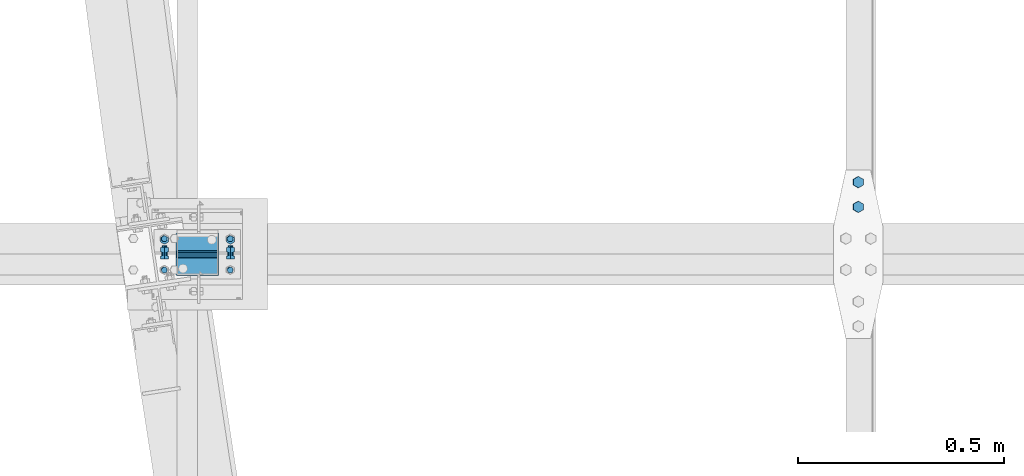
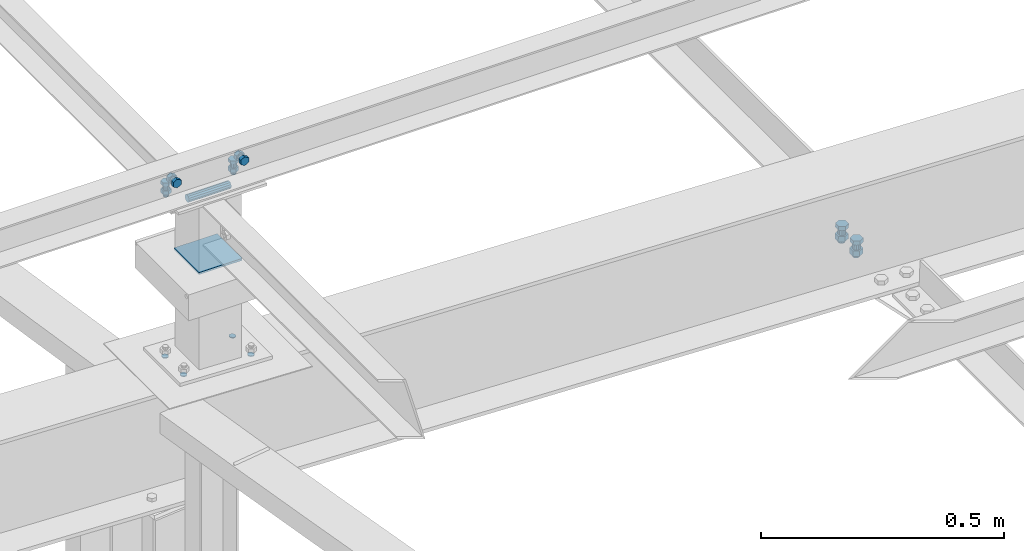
# One storey, part 73 of 3134: 6 mechanical fasteners, 4 elements without a shape of their own.
"""IFC2X3 building model written with IfcOpenShell, lengths in millimetres."""

from ifc_helpers import new_model, si_unit, frame, origin_with_axes, place, context, subcontext, project, spatial, faceted_brep, source, transform, mapped, material, type_object, element, aggregate, save


model = new_model("IFC2X3")

# Units and contexts
model_context = context("Model", 3, precision=1e-05, world=origin_with_axes())
body_context = subcontext(model_context, "Body", "Model", "MODEL_VIEW")
ifc_project = project(units=[si_unit("LENGTHUNIT", "METRE", prefix="MILLI"), si_unit("AREAUNIT", "SQUARE_METRE"), si_unit("VOLUMEUNIT", "CUBIC_METRE"), si_unit("MASSUNIT", "GRAM", prefix="KILO"), si_unit("TIMEUNIT", "SECOND"), si_unit("PLANEANGLEUNIT", "RADIAN"), si_unit("SOLIDANGLEUNIT", "STERADIAN"), si_unit("THERMODYNAMICTEMPERATUREUNIT", "DEGREE_CELSIUS"), si_unit("LUMINOUSINTENSITYUNIT", "LUMEN")], contexts=[model_context])

# Site, building, storey
site_placement = place(None, origin_with_axes())
site = spatial("IfcSite", under=ifc_project, at=site_placement, CompositionType="ELEMENT")
building_placement = place(site_placement, origin_with_axes())
building = spatial("IfcBuilding", under=site, at=building_placement, Name="Undefined", CompositionType="ELEMENT")
storey_placement = place(building_placement, origin_with_axes())
storey = spatial("IfcBuildingStorey", under=building, at=storey_placement, Name="Undefined", CompositionType="ELEMENT", Elevation=0.0)

# Assembly, mechanical fastener
assembly_1_placement = place(storey_placement, origin_with_axes())
assembly_1 = element("IfcElementAssembly", 1, at=assembly_1_placement, inside=storey, AssemblyPlace="NOTDEFINED", PredefinedType="RIGID_FRAME")
ifc_material_1 = material(Name="8.8")
mechanical_fastener_type = type_object("IfcMechanicalFastenerType", Name="Bolt assembly")
shared_shape_1 = source(origin_with_axes(), body_context, "Body", "Brep", [
    faceted_brep([(10.9696551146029, -14.0, 0.0), (5.48482755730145, -14.0, 9.5), (-5.48482755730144, -14.0, 9.5), (-10.9696551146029, -14.0, 1.34339530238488e-15), (-5.48482755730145, -14.0, -9.5), (5.48482755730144, -14.0, -9.50000000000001), (5.48482755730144, -6.0, -9.50000000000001), (-5.48482755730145, -6.0, -9.5), (-10.9696551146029, -6.0, 1.34339530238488e-15), (-5.48482755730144, -6.0, 9.5), (5.48482755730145, -6.0, 9.5), (10.9696551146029, -6.0, 0.0), (6.0, -6.0, 0.0), (5.19615242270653, -6.0, 3.00000000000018), (2.99999999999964, -6.0, 5.19615242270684), (-6.21801588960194e-13, -6.0, 6.0), (-3.00000000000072, -6.0, 5.19615242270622), (-5.19615242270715, -6.0, 2.9999999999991), (-6.0, -6.0, -1.24360317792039e-12), (-5.19615242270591, -6.0, -3.00000000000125), (-2.99999999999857, -6.0, -5.19615242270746), (1.85874342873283e-12, -6.0, -6.0), (3.00000000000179, -6.0, -5.1961524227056), (5.19615242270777, -6.0, -2.99999999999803), (5.19615242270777, 24.0, -2.99999999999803), (3.00000000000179, 24.0, -5.1961524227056), (1.85874342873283e-12, 24.0, -6.0), (-2.99999999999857, 24.0, -5.19615242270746), (-5.19615242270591, 24.0, -3.00000000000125), (-6.0, 24.0, -1.24360317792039e-12), (-5.19615242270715, 24.0, 2.9999999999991), (-3.00000000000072, 24.0, 5.19615242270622), (-6.21801588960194e-13, 24.0, 6.0), (2.99999999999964, 24.0, 5.19615242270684), (5.19615242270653, 24.0, 3.00000000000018), (6.0, 24.0, 0.0), (10.9696551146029, 6.00000000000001, 0.0), (5.48482755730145, 6.00000000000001, 9.5), (-5.48482755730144, 6.00000000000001, 9.5), (-10.9696551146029, 6.00000000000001, 1.34339530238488e-15), (-5.48482755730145, 6.00000000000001, -9.5), (5.48482755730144, 6.00000000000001, -9.50000000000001), (5.48482755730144, 16.0, -9.50000000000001), (-5.48482755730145, 16.0, -9.5), (-10.9696551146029, 16.0, 1.34339530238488e-15), (-5.48482755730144, 16.0, 9.5), (5.48482755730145, 16.0, 9.5), (10.9696551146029, 16.0, 0.0)], [[[0, 1, 2, 3, 4, 5]], [[6, 7, 8, 9, 10, 11]], [[0, 11, 10, 1]], [[1, 10, 9, 2]], [[2, 9, 8, 3]], [[3, 8, 7, 4]], [[4, 7, 6, 5]], [[5, 6, 11, 0]], [[12, 13, 14, 15, 16, 17, 18, 19, 20, 21, 22, 23]], [[24, 25, 26, 27, 28, 29, 30, 31, 32, 33, 34, 35]], [[12, 35, 34, 13]], [[13, 34, 33, 14]], [[14, 33, 32, 15]], [[15, 32, 31, 16]], [[16, 31, 30, 17]], [[17, 30, 29, 18]], [[18, 29, 28, 19]], [[19, 28, 27, 20]], [[20, 27, 26, 21]], [[21, 26, 25, 22]], [[22, 25, 24, 23]], [[23, 24, 35, 12]], [[36, 37, 38, 39, 40, 41]], [[42, 43, 44, 45, 46, 47]], [[36, 47, 46, 37]], [[37, 46, 45, 38]], [[38, 45, 44, 39]], [[39, 44, 43, 40]], [[40, 43, 42, 41]], [[41, 42, 47, 36]]]),
    faceted_brep([(7.0, -0.1, 0.0), (6.06217782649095, -0.1, 3.50000000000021), (3.49999999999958, -0.1, 6.06217782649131), (-7.25435187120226e-13, -0.1, 7.0), (-3.50000000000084, -0.1, 6.06217782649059), (-6.06217782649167, -0.1, 3.49999999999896), (-7.0, -0.1, -1.45087037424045e-12), (-6.06217782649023, -0.1, -3.50000000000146), (-3.49999999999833, -0.1, -6.06217782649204), (2.1685340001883e-12, -0.1, -7.0), (3.50000000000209, -0.1, -6.06217782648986), (6.0621778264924, -0.1, -3.4999999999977), (6.0621778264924, 6.00000000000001, -3.4999999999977), (3.50000000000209, 6.00000000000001, -6.06217782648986), (2.1685340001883e-12, 6.00000000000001, -7.0), (-3.49999999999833, 6.00000000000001, -6.06217782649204), (-6.06217782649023, 6.00000000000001, -3.50000000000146), (-7.0, 6.00000000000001, -1.45087037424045e-12), (-6.06217782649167, 6.00000000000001, 3.49999999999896), (-3.50000000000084, 6.00000000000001, 6.06217782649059), (-7.25435187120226e-13, 6.00000000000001, 7.0), (3.49999999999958, 6.00000000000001, 6.06217782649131), (6.06217782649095, 6.00000000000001, 3.50000000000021), (7.0, 6.00000000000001, 0.0), (7.0, -5.9, 0.0), (6.06217782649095, -5.9, 3.50000000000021), (3.49999999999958, -5.9, 6.06217782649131), (-7.25435187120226e-13, -5.9, 7.0), (-3.50000000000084, -5.9, 6.06217782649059), (-6.06217782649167, -5.9, 3.49999999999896), (-7.0, -5.9, -1.45087037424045e-12), (-6.06217782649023, -5.9, -3.50000000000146), (-3.49999999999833, -5.9, -6.06217782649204), (2.1685340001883e-12, -5.9, -7.0), (3.50000000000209, -5.9, -6.06217782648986), (6.0621778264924, -5.9, -3.4999999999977), (6.0621778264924, 0.0999999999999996, -3.4999999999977), (3.50000000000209, 0.0999999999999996, -6.06217782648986), (2.1685340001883e-12, 0.0999999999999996, -7.0), (-3.49999999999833, 0.0999999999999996, -6.06217782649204), (-6.06217782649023, 0.0999999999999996, -3.50000000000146), (-7.0, 0.0999999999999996, -1.45087037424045e-12), (-6.06217782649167, 0.0999999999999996, 3.49999999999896), (-3.50000000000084, 0.0999999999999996, 6.06217782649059), (-7.25435187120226e-13, 0.0999999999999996, 7.0), (3.49999999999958, 0.0999999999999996, 6.06217782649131), (6.06217782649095, 0.0999999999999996, 3.50000000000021), (7.0, 0.0999999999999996, 0.0)], [[[0, 1, 2, 3, 4, 5, 6, 7, 8, 9, 10, 11]], [[12, 13, 14, 15, 16, 17, 18, 19, 20, 21, 22, 23]], [[0, 23, 22, 1]], [[1, 22, 21, 2]], [[2, 21, 20, 3]], [[3, 20, 19, 4]], [[4, 19, 18, 5]], [[5, 18, 17, 6]], [[6, 17, 16, 7]], [[7, 16, 15, 8]], [[8, 15, 14, 9]], [[9, 14, 13, 10]], [[10, 13, 12, 11]], [[11, 12, 23, 0]], [[24, 25, 26, 27, 28, 29, 30, 31, 32, 33, 34, 35]], [[36, 37, 38, 39, 40, 41, 42, 43, 44, 45, 46, 47]], [[24, 47, 46, 25]], [[25, 46, 45, 26]], [[26, 45, 44, 27]], [[27, 44, 43, 28]], [[28, 43, 42, 29]], [[29, 42, 41, 30]], [[30, 41, 40, 31]], [[31, 40, 39, 32]], [[32, 39, 38, 33]], [[33, 38, 37, 34]], [[34, 37, 36, 35]], [[35, 36, 47, 24]]]),
])
mechanical_fastener_1_placement = place(assembly_1_placement, frame((3043.33, 27078.75, 4365.0), z_axis=(1.0, 0.0, 0.0), x_axis=(0.0, -1.0, 0.0)))
mechanical_fastener_1 = element("IfcMechanicalFastener", 2, at=mechanical_fastener_1_placement, type_object=mechanical_fastener_type, material=ifc_material_1, Name="Bolt assembly", NominalDiameter=12.0, NominalLength=30.0, context=body_context, shape_type="MappedRepresentation", body=[
    mapped(shared_shape_1, transform((0.0, -5.32963895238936e-10, -79.9999999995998))),
    mapped(shared_shape_1, transform((0.0, 5.3114490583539e-10, 79.9999999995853))),
])

assembly_2_placement = place(storey_placement, origin_with_axes())
assembly_2 = element("IfcElementAssembly", 3, at=assembly_2_placement, inside=storey, Name="PL8", AssemblyPlace="NOTDEFINED", PredefinedType="RIGID_FRAME")
shared_shape_2 = source(origin_with_axes(), body_context, "Body", "Brep", [
    faceted_brep([(13.856406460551, -21.0000017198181, 0.0), (6.92820323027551, -21.0000017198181, 12.0), (-6.92820323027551, -21.0000017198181, 12.0), (-13.856406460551, -21.0000017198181, 1.69692038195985e-15), (-6.92820323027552, -21.0000017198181, -12.0), (6.9282032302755, -21.0000017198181, -12.0), (6.9282032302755, -11.0000017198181, -12.0), (-6.92820323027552, -11.0000017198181, -12.0), (-13.856406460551, -11.0000017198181, 1.69692038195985e-15), (-6.92820323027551, -11.0000017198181, 12.0), (6.92820323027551, -11.0000017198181, 12.0), (13.856406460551, -11.0000017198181, 0.0), (8.0, -11.0000017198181, 0.0), (6.92820323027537, -11.0000017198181, 4.00000000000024), (3.99999999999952, -11.0000017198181, 6.92820323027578), (-8.29068785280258e-13, -11.0000017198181, 8.0), (-4.00000000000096, -11.0000017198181, 6.92820323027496), (-6.9282032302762, -11.0000017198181, 3.99999999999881), (-8.0, -11.0000017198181, -1.65813757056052e-12), (-6.92820323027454, -11.0000017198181, -4.00000000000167), (-3.99999999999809, -11.0000017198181, -6.92820323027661), (2.47832457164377e-12, -11.0000017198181, -8.0), (4.00000000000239, -11.0000017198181, -6.92820323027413), (6.92820323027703, -11.0000017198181, -3.99999999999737), (6.92820323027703, 23.9999999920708, -3.99999999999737), (4.00000000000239, 23.9999999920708, -6.92820323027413), (2.47832457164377e-12, 23.9999999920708, -8.0), (-3.99999999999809, 23.9999999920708, -6.92820323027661), (-6.92820323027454, 23.9999999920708, -4.00000000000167), (-8.0, 23.9999999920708, -1.65813757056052e-12), (-6.9282032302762, 23.9999999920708, 3.99999999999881), (-4.00000000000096, 23.9999999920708, 6.92820323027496), (-8.29068785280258e-13, 23.9999999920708, 8.0), (3.99999999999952, 23.9999999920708, 6.92820323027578), (6.92820323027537, 23.9999999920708, 4.00000000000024), (8.0, 23.9999999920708, 0.0), (13.856406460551, 3.99999999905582, 0.0), (6.92820323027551, 3.99999999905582, 12.0), (-6.92820323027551, 3.99999999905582, 12.0), (-13.856406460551, 3.99999999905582, 1.69692038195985e-15), (-6.92820323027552, 3.99999999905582, -12.0), (6.9282032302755, 3.99999999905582, -12.0), (6.9282032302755, 16.9999999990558, -12.0), (-6.92820323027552, 16.9999999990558, -12.0), (-13.856406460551, 16.9999999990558, 1.69692038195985e-15), (-6.92820323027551, 16.9999999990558, 12.0), (6.92820323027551, 16.9999999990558, 12.0), (13.856406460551, 16.9999999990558, 0.0)], [[[0, 1, 2, 3, 4, 5]], [[6, 7, 8, 9, 10, 11]], [[0, 11, 10, 1]], [[1, 10, 9, 2]], [[2, 9, 8, 3]], [[3, 8, 7, 4]], [[4, 7, 6, 5]], [[5, 6, 11, 0]], [[12, 13, 14, 15, 16, 17, 18, 19, 20, 21, 22, 23]], [[24, 25, 26, 27, 28, 29, 30, 31, 32, 33, 34, 35]], [[12, 35, 34, 13]], [[13, 34, 33, 14]], [[14, 33, 32, 15]], [[15, 32, 31, 16]], [[16, 31, 30, 17]], [[17, 30, 29, 18]], [[18, 29, 28, 19]], [[19, 28, 27, 20]], [[20, 27, 26, 21]], [[21, 26, 25, 22]], [[22, 25, 24, 23]], [[23, 24, 35, 12]], [[36, 37, 38, 39, 40, 41]], [[42, 43, 44, 45, 46, 47]], [[36, 47, 46, 37]], [[37, 46, 45, 38]], [[38, 45, 44, 39]], [[39, 44, 43, 40]], [[40, 43, 42, 41]], [[41, 42, 47, 36]]]),
    faceted_brep([(9.0, -10.9000017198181, 0.0), (7.79422863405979, -10.9000017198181, 4.50000000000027), (4.49999999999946, -10.9000017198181, 7.79422863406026), (-9.3270238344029e-13, -10.9000017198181, 9.0), (-4.50000000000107, -10.9000017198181, 7.79422863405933), (-7.79422863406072, -10.9000017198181, 4.49999999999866), (-9.0, -10.9000017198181, -1.86540476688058e-12), (-7.79422863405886, -10.9000017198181, -4.50000000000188), (-4.49999999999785, -10.9000017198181, -7.79422863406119), (2.78811514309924e-12, -10.9000017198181, -9.0), (4.50000000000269, -10.9000017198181, -7.7942286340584), (7.79422863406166, -10.9000017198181, -4.49999999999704), (7.79422863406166, -3.9, -4.49999999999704), (4.50000000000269, -3.9, -7.7942286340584), (2.78811514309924e-12, -3.9, -9.0), (-4.49999999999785, -3.9, -7.79422863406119), (-7.79422863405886, -3.9, -4.50000000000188), (-9.0, -3.9, -1.86540476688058e-12), (-7.79422863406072, -3.9, 4.49999999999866), (-4.50000000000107, -3.9, 7.79422863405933), (-9.3270238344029e-13, -3.9, 9.0), (4.49999999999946, -3.9, 7.79422863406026), (7.79422863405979, -3.9, 4.50000000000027), (9.0, -3.9, 0.0), (9.0, -4.10000000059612, 0.0), (7.79422863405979, -4.10000000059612, 4.50000000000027), (4.49999999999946, -4.10000000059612, 7.79422863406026), (-9.3270238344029e-13, -4.10000000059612, 9.0), (-4.50000000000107, -4.10000000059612, 7.79422863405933), (-7.79422863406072, -4.10000000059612, 4.49999999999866), (-9.0, -4.10000000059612, -1.86540476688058e-12), (-7.79422863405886, -4.10000000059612, -4.50000000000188), (-4.49999999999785, -4.10000000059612, -7.79422863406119), (2.78811514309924e-12, -4.10000000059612, -9.0), (4.50000000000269, -4.10000000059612, -7.7942286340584), (7.79422863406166, -4.10000000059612, -4.49999999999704), (7.79422863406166, 4.00000375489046, -4.49999999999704), (4.50000000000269, 4.00000375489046, -7.7942286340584), (2.78811514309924e-12, 4.00000375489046, -9.0), (-4.49999999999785, 4.00000375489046, -7.79422863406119), (-7.79422863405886, 4.00000375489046, -4.50000000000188), (-9.0, 4.00000375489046, -1.86540476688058e-12), (-7.79422863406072, 4.00000375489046, 4.49999999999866), (-4.50000000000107, 4.00000375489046, 7.79422863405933), (-9.3270238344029e-13, 4.00000375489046, 9.0), (4.49999999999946, 4.00000375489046, 7.79422863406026), (7.79422863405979, 4.00000375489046, 4.50000000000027), (9.0, 4.00000375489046, 0.0)], [[[0, 1, 2, 3, 4, 5, 6, 7, 8, 9, 10, 11]], [[12, 13, 14, 15, 16, 17, 18, 19, 20, 21, 22, 23]], [[0, 23, 22, 1]], [[1, 22, 21, 2]], [[2, 21, 20, 3]], [[3, 20, 19, 4]], [[4, 19, 18, 5]], [[5, 18, 17, 6]], [[6, 17, 16, 7]], [[7, 16, 15, 8]], [[8, 15, 14, 9]], [[9, 14, 13, 10]], [[10, 13, 12, 11]], [[11, 12, 23, 0]], [[24, 25, 26, 27, 28, 29, 30, 31, 32, 33, 34, 35]], [[36, 37, 38, 39, 40, 41, 42, 43, 44, 45, 46, 47]], [[24, 47, 46, 25]], [[25, 46, 45, 26]], [[26, 45, 44, 27]], [[27, 44, 43, 28]], [[28, 43, 42, 29]], [[29, 42, 41, 30]], [[30, 41, 40, 31]], [[31, 40, 39, 32]], [[32, 39, 38, 33]], [[33, 38, 37, 34]], [[34, 37, 36, 35]], [[35, 36, 47, 24]]]),
])
mechanical_fastener_2_placement = place(assembly_2_placement, frame((4647.504835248, 27158.75, 3576.15051901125), z_axis=(-0.999388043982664, 0.0, 0.0349791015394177), x_axis=(0.0, 1.0, 0.0)))
mechanical_fastener_2 = element("IfcMechanicalFastener", 4, at=mechanical_fastener_2_placement, type_object=mechanical_fastener_type, material=ifc_material_1, Name="Bolt assembly", NominalDiameter=16.0, NominalLength=35.0, context=body_context, shape_type="MappedRepresentation", body=[
    mapped(shared_shape_2, transform((0.0, 0.0, 0.0))),
    mapped(shared_shape_2, transform((59.9999999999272, 0.0, 5.40239852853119e-10))),
])
aggregate(assembly_2, [mechanical_fastener_2])

assembly_3_placement = place(storey_placement, origin_with_axes())
assembly_3 = element("IfcElementAssembly", 5, at=assembly_3_placement, inside=storey, AssemblyPlace="NOTDEFINED", PredefinedType="RIGID_FRAME")
shared_shape_3 = source(origin_with_axes(), body_context, "Body", "Brep", [
    faceted_brep([(7.0, 13.0000253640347, 0.0), (6.06217782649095, 13.0000253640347, 3.50000000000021), (3.49999999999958, 13.0000253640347, 6.06217782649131), (-7.25435187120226e-13, 13.0000253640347, 7.0), (-3.50000000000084, 13.0000253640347, 6.06217782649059), (-6.06217782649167, 13.0000253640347, 3.49999999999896), (-7.0, 13.0000253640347, -1.45087037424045e-12), (-6.06217782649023, 13.0000253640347, -3.50000000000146), (-3.49999999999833, 13.0000253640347, -6.06217782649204), (2.1685340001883e-12, 13.0000253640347, -7.0), (3.50000000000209, 13.0000253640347, -6.06217782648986), (6.0621778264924, 13.0000253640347, -3.4999999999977), (6.0621778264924, 15.0999999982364, -3.4999999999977), (3.50000000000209, 15.0999999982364, -6.06217782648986), (2.1685340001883e-12, 15.0999999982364, -7.0), (-3.49999999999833, 15.0999999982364, -6.06217782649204), (-6.06217782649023, 15.0999999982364, -3.50000000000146), (-7.0, 15.0999999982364, -1.45087037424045e-12), (-6.06217782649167, 15.0999999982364, 3.49999999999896), (-3.50000000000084, 15.0999999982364, 6.06217782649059), (-7.25435187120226e-13, 15.0999999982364, 7.0), (3.49999999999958, 15.0999999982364, 6.06217782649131), (6.06217782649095, 15.0999999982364, 3.50000000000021), (7.0, 15.0999999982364, 0.0)], [[[0, 1, 2, 3, 4, 5, 6, 7, 8, 9, 10, 11]], [[12, 13, 14, 15, 16, 17, 18, 19, 20, 21, 22, 23]], [[0, 23, 22, 1]], [[1, 22, 21, 2]], [[2, 21, 20, 3]], [[3, 20, 19, 4]], [[4, 19, 18, 5]], [[5, 18, 17, 6]], [[6, 17, 16, 7]], [[7, 16, 15, 8]], [[8, 15, 14, 9]], [[9, 14, 13, 10]], [[10, 13, 12, 11]], [[11, 12, 23, 0]]]),
])
mechanical_fastener_3_placement = place(assembly_3_placement, frame((3042.5231765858, 27081.7499999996, 3920.50000668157), z_axis=(-0.999387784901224, 0.0, 0.0349865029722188), x_axis=(0.0, -1.0, 0.0)))
mechanical_fastener_3 = element("IfcMechanicalFastener", 6, at=mechanical_fastener_3_placement, type_object=mechanical_fastener_type, material=ifc_material_1, Name="Bolt assembly", NominalDiameter=12.0, NominalLength=2.0, context=body_context, shape_type="MappedRepresentation", body=[
    mapped(shared_shape_3, transform((0.0, -5.32963895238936e-10, -79.9999999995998))),
    mapped(shared_shape_3, transform((76.0, -5.32963895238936e-10, -79.9999999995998))),
    mapped(shared_shape_3, transform((0.0, 5.3114490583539e-10, 79.9999999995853))),
    mapped(shared_shape_3, transform((76.0, 5.3114490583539e-10, 79.9999999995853))),
])
aggregate(assembly_3, [mechanical_fastener_3])

# Assembly, mechanical fasteners
assembly_4_placement = place(storey_placement, origin_with_axes())
assembly_4 = element("IfcElementAssembly", 7, at=assembly_4_placement, inside=storey, AssemblyPlace="NOTDEFINED", PredefinedType="RIGID_FRAME")
shared_shape_4 = source(origin_with_axes(), body_context, "Body", "Brep", [
    faceted_brep([(9.0, -50.0, 0.0), (7.79422863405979, -50.0, 4.50000000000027), (4.49999999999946, -50.0, 7.79422863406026), (-9.3270238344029e-13, -50.0, 9.0), (-4.50000000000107, -50.0, 7.79422863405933), (-7.79422863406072, -50.0, 4.49999999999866), (-9.0, -50.0, -1.86540476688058e-12), (-7.79422863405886, -50.0, -4.50000000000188), (-4.49999999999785, -50.0, -7.79422863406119), (2.78811514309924e-12, -50.0, -9.0), (4.50000000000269, -50.0, -7.7942286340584), (7.79422863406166, -50.0, -4.49999999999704), (7.79422863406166, 50.1, -4.49999999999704), (4.50000000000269, 50.1, -7.7942286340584), (2.78811514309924e-12, 50.1, -9.0), (-4.49999999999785, 50.1, -7.79422863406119), (-7.79422863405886, 50.1, -4.50000000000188), (-9.0, 50.1, -1.86540476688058e-12), (-7.79422863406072, 50.1, 4.49999999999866), (-4.50000000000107, 50.1, 7.79422863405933), (-9.3270238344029e-13, 50.1, 9.0), (4.49999999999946, 50.1, 7.79422863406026), (7.79422863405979, 50.1, 4.50000000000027), (9.0, 50.1, 0.0)], [[[0, 1, 2, 3, 4, 5, 6, 7, 8, 9, 10, 11]], [[12, 13, 14, 15, 16, 17, 18, 19, 20, 21, 22, 23]], [[0, 23, 22, 1]], [[1, 22, 21, 2]], [[2, 21, 20, 3]], [[3, 20, 19, 4]], [[4, 19, 18, 5]], [[5, 18, 17, 6]], [[6, 17, 16, 7]], [[7, 16, 15, 8]], [[8, 15, 14, 9]], [[9, 14, 13, 10]], [[10, 13, 12, 11]], [[11, 12, 23, 0]]]),
])
mechanical_fastener_4_placement = place(assembly_4_placement, frame((3043.33, 27043.75, 4345.0), z_axis=(0.0, 1.0, 0.0), x_axis=(0.0, 0.0, 1.0)))
mechanical_fastener_4 = element("IfcMechanicalFastener", 8, at=mechanical_fastener_4_placement, type_object=mechanical_fastener_type, material=ifc_material_1, Name="Bolt assembly", NominalDiameter=16.0, NominalLength=100.0, context=body_context, shape_type="MappedRepresentation", body=[
    mapped(shared_shape_4, transform((0.0, 0.0, 0.0))),
])
ifc_material_2 = material(Name="6.8")
shared_shape_5 = source(origin_with_axes(), body_context, "Body", "Brep", [
    faceted_brep([(51.5, 1.36424205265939e-12, 50.0), (51.3858192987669, 1.36424205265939e-12, 50.5740251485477), (51.0606601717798, 1.36424205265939e-12, 51.0606601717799), (50.5740251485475, 1.36424205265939e-12, 51.385819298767), (-50.0000000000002, 1.36424205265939e-12, 51.5), (-50.7500000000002, 1.36424205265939e-12, 51.2990381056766), (-51.2990381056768, 1.36424205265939e-12, 50.7499999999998), (-51.5, 1.36424205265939e-12, 49.9999999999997), (-51.5, 1.36424205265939e-12, -50.0000000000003), (-51.2990381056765, 1.36424205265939e-12, -50.7500000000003), (-50.7499999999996, 1.36424205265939e-12, -51.2990381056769), (-49.9999999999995, 1.36424205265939e-12, -51.5), (50.0000000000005, 1.36424205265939e-12, -51.5), (50.7500000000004, 1.36424205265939e-12, -51.2990381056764), (51.2990381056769, 1.36424205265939e-12, -50.7499999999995), (51.5, 1.36424205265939e-12, -49.9999999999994), (51.5, 5.10000000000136, -49.9999999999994), (51.2990381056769, 5.10000000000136, -50.7499999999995), (50.7500000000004, 5.10000000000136, -51.2990381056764), (50.0000000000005, 5.10000000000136, -51.5), (-49.9999999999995, 5.10000000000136, -51.5), (-50.7499999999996, 5.10000000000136, -51.2990381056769), (-51.2990381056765, 5.10000000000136, -50.7500000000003), (-51.5, 5.10000000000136, -50.0000000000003), (-51.5, 5.10000000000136, 49.9999999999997), (-51.2990381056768, 5.10000000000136, 50.7499999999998), (-50.7500000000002, 5.10000000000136, 51.2990381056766), (-50.0000000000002, 5.10000000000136, 51.5), (50.5740251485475, 5.10000000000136, 51.385819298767), (51.0606601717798, 5.10000000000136, 51.0606601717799), (51.3858192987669, 5.10000000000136, 50.5740251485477), (51.5, 5.10000000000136, 50.0)], [[[0, 1, 2, 3, 4, 5, 6, 7, 8, 9, 10, 11, 12, 13, 14, 15]], [[16, 17, 18, 19, 20, 21, 22, 23, 24, 25, 26, 27, 28, 29, 30, 31]], [[0, 31, 30, 1]], [[1, 30, 29, 2]], [[2, 29, 28, 3]], [[3, 28, 27, 4]], [[4, 27, 26, 5]], [[5, 26, 25, 6]], [[6, 25, 24, 7]], [[7, 24, 23, 8]], [[8, 23, 22, 9]], [[9, 22, 21, 10]], [[10, 21, 20, 11]], [[11, 20, 19, 12]], [[12, 19, 18, 13]], [[13, 18, 17, 14]], [[14, 17, 16, 15]], [[15, 16, 31, 0]]]),
])
mechanical_fastener_5_placement = place(assembly_4_placement, frame((3043.33, 27043.75, 4190.29), z_axis=(0.0, -1.0, 0.0), x_axis=(-1.0, 0.0, 0.0)))
mechanical_fastener_5 = element("IfcMechanicalFastener", 9, at=mechanical_fastener_5_placement, type_object=mechanical_fastener_type, material=ifc_material_2, Name="Bolt assembly", NominalDiameter=10.0, NominalLength=5.0, context=body_context, shape_type="MappedRepresentation", body=[
    mapped(shared_shape_5, transform((0.0, 0.0, 0.0))),
])
aggregate(assembly_4, [mechanical_fastener_5, mechanical_fastener_4])

# Mechanical fastener
shared_shape_6 = source(origin_with_axes(), body_context, "Body", "Brep", [
    faceted_brep([(10.9696551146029, -12.0003169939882, 0.0), (5.48482755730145, -12.0003169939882, 9.5), (-5.48482755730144, -12.0003169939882, 9.5), (-10.9696551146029, -12.0003169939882, 1.34339530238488e-15), (-5.48482755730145, -12.0003169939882, -9.5), (5.48482755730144, -12.0003169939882, -9.50000000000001), (5.48482755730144, -4.00031699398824, -9.50000000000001), (-5.48482755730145, -4.00031699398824, -9.5), (-10.9696551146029, -4.00031699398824, 1.34339530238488e-15), (-5.48482755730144, -4.00031699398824, 9.5), (5.48482755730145, -4.00031699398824, 9.5), (10.9696551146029, -4.00031699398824, 0.0), (6.0, -4.00031699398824, 0.0), (5.19615242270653, -4.00031699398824, 3.00000000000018), (2.99999999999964, -4.00031699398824, 5.19615242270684), (-6.21801588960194e-13, -4.00031699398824, 6.0), (-3.00000000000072, -4.00031699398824, 5.19615242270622), (-5.19615242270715, -4.00031699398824, 2.9999999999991), (-6.0, -4.00031699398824, -1.24360317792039e-12), (-5.19615242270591, -4.00031699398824, -3.00000000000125), (-2.99999999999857, -4.00031699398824, -5.19615242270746), (1.85874342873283e-12, -4.00031699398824, -6.0), (3.00000000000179, -4.00031699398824, -5.1961524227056), (5.19615242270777, -4.00031699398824, -2.99999999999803), (5.19615242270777, 20.9997148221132, -2.99999999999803), (3.00000000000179, 20.9997148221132, -5.1961524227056), (1.85874342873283e-12, 20.9997148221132, -6.0), (-2.99999999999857, 20.9997148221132, -5.19615242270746), (-5.19615242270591, 20.9997148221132, -3.00000000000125), (-6.0, 20.9997148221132, -1.24360317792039e-12), (-5.19615242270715, 20.9997148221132, 2.9999999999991), (-3.00000000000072, 20.9997148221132, 5.19615242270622), (-6.21801588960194e-13, 20.9997148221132, 6.0), (2.99999999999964, 20.9997148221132, 5.19615242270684), (5.19615242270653, 20.9997148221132, 3.00000000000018), (6.0, 20.9997148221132, 0.0), (10.9696551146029, 6.00000000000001, 0.0), (5.48482755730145, 6.00000000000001, 9.5), (-5.48482755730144, 6.00000000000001, 9.5), (-10.9696551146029, 6.00000000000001, 1.34339530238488e-15), (-5.48482755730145, 6.00000000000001, -9.5), (5.48482755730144, 6.00000000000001, -9.50000000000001), (5.48482755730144, 16.0, -9.50000000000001), (-5.48482755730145, 16.0, -9.5), (-10.9696551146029, 16.0, 1.34339530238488e-15), (-5.48482755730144, 16.0, 9.5), (5.48482755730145, 16.0, 9.5), (10.9696551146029, 16.0, 0.0)], [[[0, 1, 2, 3, 4, 5]], [[6, 7, 8, 9, 10, 11]], [[0, 11, 10, 1]], [[1, 10, 9, 2]], [[2, 9, 8, 3]], [[3, 8, 7, 4]], [[4, 7, 6, 5]], [[5, 6, 11, 0]], [[12, 13, 14, 15, 16, 17, 18, 19, 20, 21, 22, 23]], [[24, 25, 26, 27, 28, 29, 30, 31, 32, 33, 34, 35]], [[12, 35, 34, 13]], [[13, 34, 33, 14]], [[14, 33, 32, 15]], [[15, 32, 31, 16]], [[16, 31, 30, 17]], [[17, 30, 29, 18]], [[18, 29, 28, 19]], [[19, 28, 27, 20]], [[20, 27, 26, 21]], [[21, 26, 25, 22]], [[22, 25, 24, 23]], [[23, 24, 35, 12]], [[36, 37, 38, 39, 40, 41]], [[42, 43, 44, 45, 46, 47]], [[36, 47, 46, 37]], [[37, 46, 45, 38]], [[38, 45, 44, 39]], [[39, 44, 43, 40]], [[40, 43, 42, 41]], [[41, 42, 47, 36]]]),
    faceted_brep([(7.0, -3.90031233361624, 0.0), (6.06217782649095, -3.90027629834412, 3.50000000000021), (3.49999999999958, -3.90031233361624, 6.06217782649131), (-7.25435187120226e-13, -3.90027629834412, 7.0), (-3.50000000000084, -3.90027629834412, 6.06217782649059), (-6.06217782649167, -3.90027629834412, 3.49999999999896), (-7.0, -3.90031233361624, -1.45087037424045e-12), (-6.06217782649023, -3.90027629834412, -3.50000000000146), (-3.49999999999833, -3.90027629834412, -6.06217782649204), (2.1685340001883e-12, -3.90027629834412, -7.0), (3.50000000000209, -3.90027629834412, -6.06217782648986), (6.0621778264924, -3.90031233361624, -3.4999999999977), (6.0621778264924, 0.0996830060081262, -3.4999999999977), (3.50000000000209, 0.0996830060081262, -6.06217782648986), (2.1685340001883e-12, 0.0996830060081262, -7.0), (-3.49999999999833, 0.0996830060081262, -6.06217782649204), (-6.06217782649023, 0.0996830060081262, -3.50000000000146), (-7.0, 0.0996830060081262, -1.45087037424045e-12), (-6.06217782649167, 0.0997148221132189, 3.49999999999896), (-3.50000000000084, 0.0997148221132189, 6.06217782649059), (-7.25435187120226e-13, 0.0996830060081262, 7.0), (3.49999999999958, 0.0996830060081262, 6.06217782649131), (6.06217782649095, 0.0996830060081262, 3.50000000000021), (7.0, 0.0997148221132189, 0.0), (7.0, -0.1, 0.0), (6.06217782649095, -0.1, 3.50000000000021), (3.49999999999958, -0.1, 6.06217782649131), (-7.25435187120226e-13, -0.1, 7.0), (-3.50000000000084, -0.1, 6.06217782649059), (-6.06217782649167, -0.1, 3.49999999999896), (-7.0, -0.1, -1.45087037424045e-12), (-6.06217782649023, -0.1, -3.50000000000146), (-3.49999999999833, -0.1, -6.06217782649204), (2.1685340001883e-12, -0.1, -7.0), (3.50000000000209, -0.1, -6.06217782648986), (6.0621778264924, -0.1, -3.4999999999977), (6.0621778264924, 6.00000000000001, -3.4999999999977), (3.50000000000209, 6.00000000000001, -6.06217782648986), (2.1685340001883e-12, 6.00000000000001, -7.0), (-3.49999999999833, 6.00000000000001, -6.06217782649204), (-6.06217782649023, 6.00000000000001, -3.50000000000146), (-7.0, 6.00000000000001, -1.45087037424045e-12), (-6.06217782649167, 6.00000000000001, 3.49999999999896), (-3.50000000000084, 6.00000000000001, 6.06217782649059), (-7.25435187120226e-13, 6.00000000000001, 7.0), (3.49999999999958, 6.00000000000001, 6.06217782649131), (6.06217782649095, 6.00000000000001, 3.50000000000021), (7.0, 6.00000000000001, 0.0)], [[[0, 1, 2, 3, 4, 5, 6, 7, 8, 9, 10, 11]], [[12, 13, 14, 15, 16, 17, 18, 19, 20, 21, 22, 23]], [[0, 23, 22, 1]], [[1, 22, 21, 2]], [[2, 21, 20, 3]], [[3, 20, 19, 4]], [[4, 19, 18, 5]], [[5, 18, 17, 6]], [[6, 17, 16, 7]], [[7, 16, 15, 8]], [[8, 15, 14, 9]], [[9, 14, 13, 10]], [[10, 13, 12, 11]], [[11, 12, 23, 0]], [[24, 25, 26, 27, 28, 29, 30, 31, 32, 33, 34, 35]], [[36, 37, 38, 39, 40, 41, 42, 43, 44, 45, 46, 47]], [[24, 47, 46, 25]], [[25, 46, 45, 26]], [[26, 45, 44, 27]], [[27, 44, 43, 28]], [[28, 43, 42, 29]], [[29, 42, 41, 30]], [[30, 41, 40, 31]], [[31, 40, 39, 32]], [[32, 39, 38, 33]], [[33, 38, 37, 34]], [[34, 37, 36, 35]], [[35, 36, 47, 24]]]),
])
mechanical_fastener_6_placement = place(assembly_1_placement, frame((3043.33, 27043.75, 4400.0), z_axis=(1.0, 0.0, 0.0), x_axis=(0.0, 0.0, -1.0)))
mechanical_fastener_6 = element("IfcMechanicalFastener", 10, at=mechanical_fastener_6_placement, type_object=mechanical_fastener_type, material=ifc_material_1, Name="Bolt assembly", NominalDiameter=12.0, NominalLength=25.0, context=body_context, shape_type="MappedRepresentation", body=[
    mapped(shared_shape_6, transform((0.0, -5.32963895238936e-10, -79.9999999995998))),
    mapped(shared_shape_6, transform((0.0, 5.3114490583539e-10, 79.9999999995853))),
])

aggregate(assembly_1, [mechanical_fastener_6, mechanical_fastener_1])

save(model, "model.ifc")
